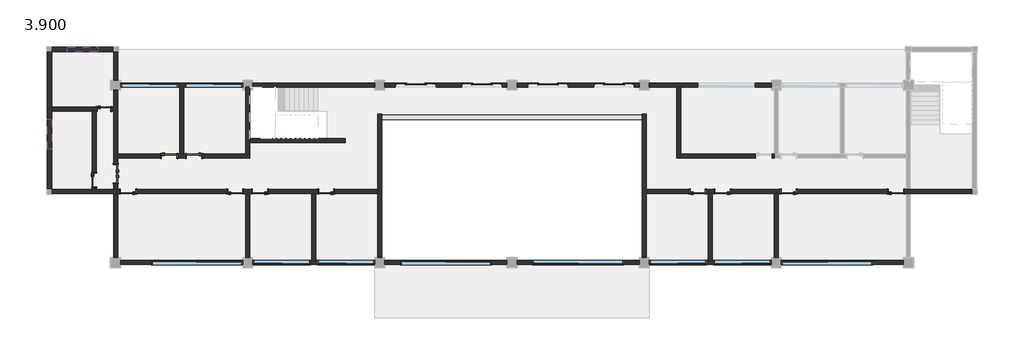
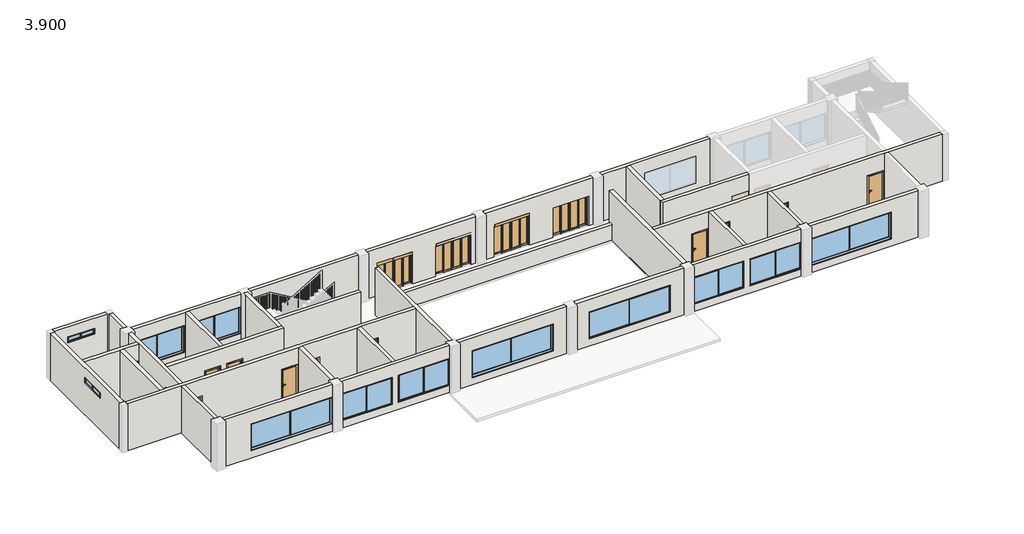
# One storey, part 1 of 4: 32 walls, 17 doors, 12 windows.
"""IFC4 building model written with IfcOpenShell, lengths in millimetres."""

from ifc_helpers import new_model, si_unit, frame, origin, place, context, project, spatial, polyline, outline, extrude, faceted_brep, transform, mapped, element, save
from components import m0921_2716a3da, m0921_be2d5bec, m1021_ed8d65da, m1021_7d4f1ed1, m1221_25037a99, m2421_7f85be3f, c1804_f212372e, c3419_631f8b4f, c3419_b8e60024, c5419_955795ff, c5419_e052dd55

model = new_model("IFC4")

# Units and contexts
model_context = context("Model", 3, world=origin())
ifc_project = project(units=[si_unit("LENGTHUNIT", "METRE", prefix="MILLI")], contexts=[model_context])

# Site, building, storey
site = spatial("IfcSite", under=ifc_project)
building = spatial("IfcBuilding", under=site)
storey = spatial("IfcBuildingStorey", under=building, Name="3.900", Elevation=3900.0)

# Doors
placement = place(None, origin())
m0921_shape = m0921_2716a3da(model_context)
element("IfcDoor", 1, ObjectType="单嵌板木门 1 : M0921", at=placement, inside=storey, context=model_context, shape_type="MappedRepresentation", body=[
    mapped(m0921_shape, transform((-4352.0109656, 4101.6095817, 3900.0), x_axis=(1.0, 0.0, 0.0), y_axis=(0.0, 1.0, 0.0), z_axis=(0.0, 0.0, 1.0))),
])
m0921_2_shape = m0921_be2d5bec(model_context)
element("IfcDoor", 2, ObjectType="单嵌板木门 1 : M0921", at=placement, inside=storey, context=model_context, shape_type="MappedRepresentation", body=[
    mapped(m0921_2_shape, transform((-4937.0109656, -98.3904183, 3900.0), x_axis=(0.0, -1.0, 0.0), y_axis=(1.0, 0.0, 0.0), z_axis=(0.0, 0.0, 1.0))),
])
m1021_shape = m1021_ed8d65da(model_context)
element("IfcDoor", 3, ObjectType="单嵌板木门 1 : M1021", at=placement, inside=storey, context=model_context, shape_type="MappedRepresentation", body=[
    mapped(m1021_shape, transform((-502.0109656, 1316.6095817, 3900.0), x_axis=(1.0, 0.0, 0.0), y_axis=(0.0, 1.0, 0.0), z_axis=(0.0, 0.0, 1.0))),
])
element("IfcDoor", 4, ObjectType="单嵌板木门 1 : M1021", at=placement, inside=storey, context=model_context, shape_type="MappedRepresentation", body=[
    mapped(m1021_shape, transform((-2927.0109656, -783.3904183, 3900.0), x_axis=(-1.0, 0.0, 0.0), y_axis=(0.0, -1.0, 0.0), z_axis=(0.0, 0.0, 1.0))),
])
element("IfcDoor", 5, ObjectType="单嵌板木门 1 : M1021", at=placement, inside=storey, context=model_context, shape_type="MappedRepresentation", body=[
    mapped(m1021_shape, transform((4867.9890344, -783.3904183, 3900.0), x_axis=(-1.0, 0.0, 0.0), y_axis=(0.0, -1.0, 0.0), z_axis=(0.0, 0.0, 1.0))),
])
element("IfcDoor", 6, ObjectType="单嵌板木门 1 : M1021", at=placement, inside=storey, context=model_context, shape_type="MappedRepresentation", body=[
    mapped(m1021_shape, transform((8767.9890344, -783.3904183, 3900.0), x_axis=(-1.0, 0.0, 0.0), y_axis=(0.0, -1.0, 0.0), z_axis=(0.0, 0.0, 1.0))),
])
element("IfcDoor", 7, ObjectType="单嵌板木门 1 : M1021", at=placement, inside=storey, context=model_context, shape_type="MappedRepresentation", body=[
    mapped(m1021_shape, transform((36067.9890344, -783.3904183, 3900.0), x_axis=(-1.0, 0.0, 0.0), y_axis=(0.0, -1.0, 0.0), z_axis=(0.0, 0.0, 1.0))),
])
element("IfcDoor", 8, ObjectType="单嵌板木门 1 : M1021", at=placement, inside=storey, context=model_context, shape_type="MappedRepresentation", body=[
    mapped(m1021_shape, transform((32167.9890344, -783.3904183, 3900.0), x_axis=(-1.0, 0.0, 0.0), y_axis=(0.0, -1.0, 0.0), z_axis=(0.0, 0.0, 1.0))),
])
m1021_2_shape = m1021_7d4f1ed1(model_context)
element("IfcDoor", 9, ObjectType="单嵌板木门 1 : M1021", at=placement, inside=storey, context=model_context, shape_type="MappedRepresentation", body=[
    mapped(m1021_2_shape, transform((967.9890344, 1316.6095817, 3900.0), x_axis=(-1.0, 0.0, 0.0), y_axis=(0.0, -1.0, 0.0), z_axis=(0.0, 0.0, 1.0))),
])
element("IfcDoor", 10, ObjectType="单嵌板木门 1 : M1021", at=placement, inside=storey, context=model_context, shape_type="MappedRepresentation", body=[
    mapped(m1021_2_shape, transform((3397.9890344, -783.3904183, 3900.0), x_axis=(1.0, 0.0, 0.0), y_axis=(0.0, 1.0, 0.0), z_axis=(0.0, 0.0, 1.0))),
])
element("IfcDoor", 11, ObjectType="单嵌板木门 1 : M1021", at=placement, inside=storey, context=model_context, shape_type="MappedRepresentation", body=[
    mapped(m1021_2_shape, transform((42392.9890344, -783.3904183, 3900.0), x_axis=(1.0, 0.0, 0.0), y_axis=(0.0, 1.0, 0.0), z_axis=(0.0, 0.0, 1.0))),
])
element("IfcDoor", 12, ObjectType="单嵌板木门 1 : M1021", at=placement, inside=storey, context=model_context, shape_type="MappedRepresentation", body=[
    mapped(m1021_2_shape, transform((30697.9890344, -783.3904183, 3900.0), x_axis=(1.0, 0.0, 0.0), y_axis=(0.0, 1.0, 0.0), z_axis=(0.0, 0.0, 1.0))),
])
m1221_shape = m1221_25037a99(model_context)
element("IfcDoor", 13, ObjectType="双面嵌板木门 1 : M1221", at=placement, inside=storey, context=model_context, shape_type="MappedRepresentation", body=[
    mapped(m1221_shape, transform((-3667.0109656, 269.1095817, 3900.0), x_axis=(0.0, -1.0, 0.0), y_axis=(1.0, 0.0, 0.0), z_axis=(0.0, 0.0, 1.0))),
])
m2421_shape = m2421_7f85be3f(model_context)
element("IfcDoor", 14, ObjectType="四扇推拉门 2 : M2421", at=placement, inside=storey, context=model_context, shape_type="MappedRepresentation", body=[
    mapped(m2421_shape, transform((14052.9890344, 5516.6095817, 3900.0), x_axis=(1.0, 0.0, 0.0), y_axis=(0.0, 1.0, 0.0), z_axis=(0.0, 0.0, 1.0))),
])
element("IfcDoor", 15, ObjectType="四扇推拉门 2 : M2421", at=placement, inside=storey, context=model_context, shape_type="MappedRepresentation", body=[
    mapped(m2421_shape, transform((17952.9890344, 5516.6095817, 3900.0), x_axis=(1.0, 0.0, 0.0), y_axis=(0.0, 1.0, 0.0), z_axis=(0.0, 0.0, 1.0))),
])
element("IfcDoor", 16, ObjectType="四扇推拉门 2 : M2421", at=placement, inside=storey, context=model_context, shape_type="MappedRepresentation", body=[
    mapped(m2421_shape, transform((25752.9890344, 5516.6095817, 3900.0), x_axis=(1.0, 0.0, 0.0), y_axis=(0.0, 1.0, 0.0), z_axis=(0.0, 0.0, 1.0))),
])
element("IfcDoor", 17, ObjectType="四扇推拉门 2 : M2421", at=placement, inside=storey, context=model_context, shape_type="MappedRepresentation", body=[
    mapped(m2421_shape, transform((21852.9890344, 5516.6095817, 3900.0), x_axis=(1.0, 0.0, 0.0), y_axis=(0.0, 1.0, 0.0), z_axis=(0.0, 0.0, 1.0))),
])

# Walls
element("IfcWall", 18, ObjectType="240mm厚墙", at=placement, inside=storey, context=model_context, shape_type="SweptSolid", body=[
    extrude(outline(polyline([(3900.0, -3842.0109656), (7200.0, -3842.0109656), (7200.0, -7392.0109656), (3900.0, -7392.0109656), (3900.0, -3842.0109656)]), holes=[polyline([(6500.0, -6517.0109656), (6500.0, -4717.0109656), (6100.0, -4717.0109656), (6100.0, -6517.0109656), (6500.0, -6517.0109656)])]), frame((0.0, 7496.6095817, 0.0), z_axis=(0.0, 1.0, 0.0), x_axis=(0.0, 0.0, 1.0)), (0.0, 0.0, 1.0), 240.0),
])
element("IfcWall", 19, ObjectType="240mm厚墙", at=placement, inside=storey, context=model_context, shape_type="Brep", body=[
    faceted_brep([(-7687.0109656, 7441.6095817, 3900.0), (-7687.0109656, -608.3904183, 3900.0), (-7687.0109656, -608.3904183, 7200.0), (-7687.0109656, 7441.6095817, 7200.0), (-7687.0109656, 3506.6095817, 6500.0), (-7687.0109656, 1706.6095817, 6500.0), (-7687.0109656, 1706.6095817, 6100.0), (-7687.0109656, 3506.6095817, 6100.0), (-7447.0109656, 7441.6095817, 3900.0), (-7447.0109656, 7441.6095817, 7200.0), (-7447.0109656, 4221.6095817, 7200.0), (-7447.0109656, 3981.6095817, 7200.0), (-7447.0109656, -608.3904183, 7200.0), (-7447.0109656, -608.3904183, 3900.0), (-7447.0109656, 3981.6095817, 3900.0), (-7447.0109656, 4221.6095817, 3900.0), (-7447.0109656, 3506.6095817, 6500.0), (-7447.0109656, 3506.6095817, 6100.0), (-7447.0109656, 1706.6095817, 6100.0), (-7447.0109656, 1706.6095817, 6500.0)], [[[0, 1, 2, 3], [4, 5, 6, 7]], [[8, 9, 10, 11, 12, 13, 14, 15], [16, 17, 18, 19]], [[1, 0, 8, 15, 14, 13]], [[2, 1, 13, 12]], [[3, 2, 12, 11, 10, 9]], [[0, 3, 9, 8]], [[17, 16, 4, 7]], [[18, 17, 7, 6]], [[19, 18, 6, 5]], [[16, 19, 5, 4]]]),
])
element("IfcWall", 20, ObjectType="240mm厚墙", at=placement, inside=storey, context=model_context, shape_type="Brep", body=[
    faceted_brep([(11812.9890344, -903.3904183, 7200.0), (8152.9890344, -903.3904183, 7200.0), (7912.9890344, -903.3904183, 7200.0), (4252.9890344, -903.3904183, 7200.0), (4012.9890344, -903.3904183, 7200.0), (-3547.0109656, -903.3904183, 7200.0), (-3787.0109656, -903.3904183, 7200.0), (-7392.0109656, -903.3904183, 7200.0), (-7392.0109656, -903.3904183, 3900.0), (-3787.0109656, -903.3904183, 3900.0), (-3547.0109656, -903.3904183, 3900.0), (-3427.0109656, -903.3904183, 3900.0), (-3427.0109656, -903.3904183, 6000.0), (-2427.0109656, -903.3904183, 6000.0), (-2427.0109656, -903.3904183, 3900.0), (2897.9890344, -903.3904183, 3900.0), (2897.9890344, -903.3904183, 6000.0), (3897.9890344, -903.3904183, 6000.0), (3897.9890344, -903.3904183, 3900.0), (4012.9890344, -903.3904183, 3900.0), (4252.9890344, -903.3904183, 3900.0), (4367.9890344, -903.3904183, 3900.0), (4367.9890344, -903.3904183, 6000.0), (5367.9890344, -903.3904183, 6000.0), (5367.9890344, -903.3904183, 3900.0), (7912.9890344, -903.3904183, 3900.0), (8152.9890344, -903.3904183, 3900.0), (8267.9890344, -903.3904183, 3900.0), (8267.9890344, -903.3904183, 6000.0), (9267.9890344, -903.3904183, 6000.0), (9267.9890344, -903.3904183, 3900.0), (11812.9890344, -903.3904183, 3900.0), (-7392.0109656, -663.3904183, 7200.0), (-5057.0109656, -663.3904183, 7200.0), (-4817.0109656, -663.3904183, 7200.0), (-3787.0109656, -663.3904183, 7200.0), (-3547.0109656, -663.3904183, 7200.0), (11812.9890344, -663.3904183, 7200.0), (11812.9890344, -663.3904183, 3900.0), (9267.9890344, -663.3904183, 3900.0), (9267.9890344, -663.3904183, 6000.0), (8267.9890344, -663.3904183, 6000.0), (8267.9890344, -663.3904183, 3900.0), (5367.9890344, -663.3904183, 3900.0), (5367.9890344, -663.3904183, 6000.0), (4367.9890344, -663.3904183, 6000.0), (4367.9890344, -663.3904183, 3900.0), (3897.9890344, -663.3904183, 3900.0), (3897.9890344, -663.3904183, 6000.0), (2897.9890344, -663.3904183, 6000.0), (2897.9890344, -663.3904183, 3900.0), (-2427.0109656, -663.3904183, 3900.0), (-2427.0109656, -663.3904183, 6000.0), (-3427.0109656, -663.3904183, 6000.0), (-3427.0109656, -663.3904183, 3900.0), (-3547.0109656, -663.3904183, 3900.0), (-3787.0109656, -663.3904183, 3900.0), (-4817.0109656, -663.3904183, 3900.0), (-5057.0109656, -663.3904183, 3900.0), (-7392.0109656, -663.3904183, 3900.0)], [[[0, 1, 2, 3, 4, 5, 6, 7, 8, 9, 10, 11, 12, 13, 14, 15, 16, 17, 18, 19, 20, 21, 22, 23, 24, 25, 26, 27, 28, 29, 30, 31]], [[32, 33, 34, 35, 36, 37, 38, 39, 40, 41, 42, 43, 44, 45, 46, 47, 48, 49, 50, 51, 52, 53, 54, 55, 56, 57, 58, 59]], [[8, 59, 58, 57, 56, 55, 54, 11, 10, 9]], [[38, 31, 30, 39]], [[14, 51, 50, 15]], [[18, 47, 46, 21, 20, 19]], [[24, 43, 42, 27, 26, 25]], [[7, 6, 5, 4, 3, 2, 1, 0, 37, 36, 35, 34, 33, 32]], [[8, 7, 32, 59]], [[0, 31, 38, 37]], [[53, 12, 11, 54]], [[12, 53, 52, 13]], [[13, 52, 51, 14]], [[18, 17, 48, 47]], [[17, 16, 49, 48]], [[16, 15, 50, 49]], [[45, 22, 21, 46]], [[22, 45, 44, 23]], [[23, 44, 43, 24]], [[41, 28, 27, 42]], [[28, 41, 40, 29]], [[29, 40, 39, 30]]]),
])
element("IfcWall", 21, ObjectType="240mm厚墙", at=placement, inside=storey, context=model_context, shape_type="Brep", body=[
    faceted_brep([(11812.9890344, 3781.6095817, 3900.0), (11812.9890344, -663.3904183, 3900.0), (11812.9890344, -903.3904183, 3900.0), (11812.9890344, -4683.3904183, 3900.0), (11812.9890344, -4683.3904183, 7200.0), (11812.9890344, -903.3904183, 7200.0), (11812.9890344, -663.3904183, 7200.0), (11812.9890344, 3781.6095817, 7200.0), (12052.9890344, 3781.6095817, 3900.0), (12052.9890344, 3781.6095817, 7200.0), (12052.9890344, -4683.3904183, 7200.0), (12052.9890344, -4683.3904183, 3900.0)], [[[0, 1, 2, 3, 4, 5, 6, 7]], [[8, 9, 10, 11]], [[3, 2, 1, 0, 8, 11]], [[4, 3, 11, 10]], [[7, 6, 5, 4, 10, 9]], [[0, 7, 9, 8]]]),
])
element("IfcWall", 22, ObjectType="240mm厚墙", at=placement, inside=storey, context=model_context, shape_type="Brep", body=[
    faceted_brep([(11632.9890344, -4863.3904183, 3900.0), (8152.9890344, -4863.3904183, 3900.0), (7912.9890344, -4863.3904183, 3900.0), (4432.9890344, -4863.3904183, 3900.0), (4432.9890344, -4863.3904183, 4400.0), (7832.9890344, -4863.3904183, 4400.0), (7832.9890344, -4863.3904183, 6300.0), (4432.9890344, -4863.3904183, 6300.0), (4432.9890344, -4863.3904183, 7200.0), (7912.9890344, -4863.3904183, 7200.0), (8152.9890344, -4863.3904183, 7200.0), (11632.9890344, -4863.3904183, 7200.0), (11632.9890344, -4863.3904183, 6300.0), (8232.9890344, -4863.3904183, 6300.0), (8232.9890344, -4863.3904183, 4400.0), (11632.9890344, -4863.3904183, 4400.0), (4432.9890344, -5103.3904183, 3900.0), (11632.9890344, -5103.3904183, 3900.0), (11632.9890344, -5103.3904183, 4400.0), (8232.9890344, -5103.3904183, 4400.0), (8232.9890344, -5103.3904183, 6300.0), (11632.9890344, -5103.3904183, 6300.0), (11632.9890344, -5103.3904183, 7200.0), (4432.9890344, -5103.3904183, 7200.0), (4432.9890344, -5103.3904183, 6300.0), (7832.9890344, -5103.3904183, 6300.0), (7832.9890344, -5103.3904183, 4400.0), (4432.9890344, -5103.3904183, 4400.0)], [[[0, 1, 2, 3, 4, 5, 6, 7, 8, 9, 10, 11, 12, 13, 14, 15]], [[16, 17, 18, 19, 20, 21, 22, 23, 24, 25, 26, 27]], [[3, 2, 1, 0, 17, 16]], [[3, 16, 27, 4]], [[23, 8, 7, 24]], [[11, 10, 9, 8, 23, 22]], [[11, 22, 21, 12]], [[17, 0, 15, 18]], [[5, 4, 27, 26]], [[6, 5, 26, 25]], [[7, 6, 25, 24]], [[13, 20, 19, 14]], [[14, 19, 18, 15]], [[20, 13, 12, 21]]]),
])
element("IfcWall", 23, ObjectType="240mm厚墙", at=placement, inside=storey, context=model_context, shape_type="SweptSolid", body=[
    extrude(outline(polyline([(3900.0, 3832.9890344), (4400.0, 3832.9890344), (4400.0, -1567.0109656), (6300.0, -1567.0109656), (6300.0, 3832.9890344), (7200.0, 3832.9890344), (7200.0, -3367.0109656), (3900.0, -3367.0109656), (3900.0, 3832.9890344)])), frame((0.0, -5103.3904183, 0.0), z_axis=(0.0, 1.0, 0.0), x_axis=(0.0, 0.0, 1.0)), (0.0, 0.0, 1.0), 240.0),
])
element("IfcWall", 24, ObjectType="240mm厚墙", at=placement, inside=storey, context=model_context, shape_type="Brep", body=[
    faceted_brep([(-3547.0109656, 5216.6095817, 3900.0), (-3547.0109656, 5216.6095817, 7200.0), (-3547.0109656, 1436.6095817, 7200.0), (-3547.0109656, 1196.6095817, 7200.0), (-3547.0109656, -663.3904183, 7200.0), (-3547.0109656, -663.3904183, 3900.0), (-3547.0109656, -330.8904183, 3900.0), (-3547.0109656, -330.8904183, 6000.0), (-3547.0109656, 869.1095817, 6000.0), (-3547.0109656, 869.1095817, 3900.0), (-3547.0109656, 1196.6095817, 3900.0), (-3547.0109656, 1436.6095817, 3900.0), (-3787.0109656, 5216.6095817, 7200.0), (-3787.0109656, 5216.6095817, 3900.0), (-3787.0109656, 4221.6095817, 3900.0), (-3787.0109656, 3981.6095817, 3900.0), (-3787.0109656, 869.1095817, 3900.0), (-3787.0109656, 869.1095817, 6000.0), (-3787.0109656, -330.8904183, 6000.0), (-3787.0109656, -330.8904183, 3900.0), (-3787.0109656, -663.3904183, 3900.0), (-3787.0109656, -663.3904183, 7200.0), (-3787.0109656, 3981.6095817, 7200.0), (-3787.0109656, 4221.6095817, 7200.0)], [[[0, 1, 2, 3, 4, 5, 6, 7, 8, 9, 10, 11]], [[12, 13, 14, 15, 16, 17, 18, 19, 20, 21, 22, 23]], [[13, 0, 11, 10, 9, 16, 15, 14]], [[19, 6, 5, 20]], [[1, 0, 13, 12]], [[1, 12, 23, 22, 21, 4, 3, 2]], [[5, 4, 21, 20]], [[18, 7, 6, 19]], [[7, 18, 17, 8]], [[8, 17, 16, 9]]]),
    faceted_brep([(-3547.0109656, -4683.3904183, 7200.0), (-3547.0109656, -4683.3904183, 3900.0), (-3547.0109656, -903.3904183, 3900.0), (-3547.0109656, -903.3904183, 7200.0), (-3787.0109656, -4683.3904183, 3900.0), (-3787.0109656, -4683.3904183, 7200.0), (-3787.0109656, -903.3904183, 7200.0), (-3787.0109656, -903.3904183, 3900.0)], [[[0, 1, 2, 3]], [[4, 5, 6, 7]], [[1, 4, 7, 2]], [[5, 0, 3, 6]], [[1, 0, 5, 4]], [[3, 2, 7, 6]]]),
])
element("IfcWall", 25, ObjectType="240mm厚墙", at=placement, inside=storey, context=model_context, shape_type="SweptSolid", body=[
    extrude(outline(polyline([(-3547.0109656, 7441.6095817), (-3547.0109656, 5816.6095817), (-3787.0109656, 5816.6095817), (-3787.0109656, 7441.6095817), (-3547.0109656, 7441.6095817)])), frame((0.0, 0.0, 3900.0), z_axis=(0.0, 0.0, 1.0), x_axis=(1.0, 0.0, 0.0)), (0.0, 0.0, 1.0), 3300.0),
])
element("IfcWall", 26, ObjectType="240mm厚墙", at=placement, inside=storey, context=model_context, shape_type="Brep", body=[
    faceted_brep([(3832.9890344, 5396.6095817, 3900.0), (3832.9890344, 5396.6095817, 4400.0), (432.9890344, 5396.6095817, 4400.0), (432.9890344, 5396.6095817, 6300.0), (3832.9890344, 5396.6095817, 6300.0), (3832.9890344, 5396.6095817, 7200.0), (352.9890344, 5396.6095817, 7200.0), (112.9890344, 5396.6095817, 7200.0), (-3367.0109656, 5396.6095817, 7200.0), (-3367.0109656, 5396.6095817, 6300.0), (32.9890344, 5396.6095817, 6300.0), (32.9890344, 5396.6095817, 4400.0), (-3367.0109656, 5396.6095817, 4400.0), (-3367.0109656, 5396.6095817, 3900.0), (112.9890344, 5396.6095817, 3900.0), (352.9890344, 5396.6095817, 3900.0), (432.9890344, 5636.6095817, 4400.0), (3832.9890344, 5636.6095817, 4400.0), (3832.9890344, 5636.6095817, 3900.0), (-3367.0109656, 5636.6095817, 3900.0), (-3367.0109656, 5636.6095817, 4400.0), (32.9890344, 5636.6095817, 4400.0), (32.9890344, 5636.6095817, 6300.0), (-3367.0109656, 5636.6095817, 6300.0), (-3367.0109656, 5636.6095817, 7200.0), (3832.9890344, 5636.6095817, 7200.0), (3832.9890344, 5636.6095817, 6300.0), (432.9890344, 5636.6095817, 6300.0)], [[[0, 1, 2, 3, 4, 5, 6, 7, 8, 9, 10, 11, 12, 13, 14, 15]], [[16, 17, 18, 19, 20, 21, 22, 23, 24, 25, 26, 27]], [[0, 15, 14, 13, 19, 18]], [[26, 25, 5, 4]], [[18, 17, 1, 0]], [[8, 7, 6, 5, 25, 24]], [[8, 24, 23, 9]], [[19, 13, 12, 20]], [[2, 1, 17, 16]], [[3, 2, 16, 27]], [[4, 3, 27, 26]], [[10, 22, 21, 11]], [[11, 21, 20, 12]], [[22, 10, 9, 23]]]),
])
element("IfcWall", 27, ObjectType="240mm厚墙", at=placement, inside=storey, context=model_context, shape_type="SweptSolid", body=[
    extrude(outline(polyline([(11632.9890344, 5396.6095817), (4432.9890344, 5396.6095817), (4432.9890344, 5636.6095817), (11632.9890344, 5636.6095817), (11632.9890344, 5396.6095817)])), frame((0.0, 0.0, 3900.0), z_axis=(0.0, 0.0, 1.0), x_axis=(1.0, 0.0, 0.0)), (0.0, 0.0, 1.0), 3300.0),
])
element("IfcWall", 28, ObjectType="240mm厚墙", at=placement, inside=storey, context=model_context, shape_type="SweptSolid", body=[
    extrude(outline(polyline([(3900.0, 19432.9890344), (7200.0, 19432.9890344), (7200.0, 12232.9890344), (3900.0, 12232.9890344), (3900.0, 12852.9890344), (6000.0, 12852.9890344), (6000.0, 15252.9890344), (3900.0, 15252.9890344), (3900.0, 16752.9890344), (6000.0, 16752.9890344), (6000.0, 19152.9890344), (3900.0, 19152.9890344), (3900.0, 19432.9890344)])), frame((0.0, 5396.6095817, 0.0), z_axis=(0.0, 1.0, 0.0), x_axis=(0.0, 0.0, 1.0)), (0.0, 0.0, 1.0), 240.0),
])
element("IfcWall", 29, ObjectType="240mm厚墙", at=placement, inside=storey, context=model_context, shape_type="SweptSolid", body=[
    extrude(outline(polyline([(3900.0, 12232.9890344), (3900.0, 19432.9890344), (7200.0, 19432.9890344), (7200.0, 12232.9890344), (3900.0, 12232.9890344)]), holes=[polyline([(6300.0, 18532.9890344), (4400.0, 18532.9890344), (4400.0, 13132.9890344), (6300.0, 13132.9890344), (6300.0, 18532.9890344)])]), frame((0.0, -5103.3904183, 0.0), z_axis=(0.0, 1.0, 0.0), x_axis=(0.0, 0.0, 1.0)), (0.0, 0.0, 1.0), 240.0),
])
element("IfcWall", 30, ObjectType="240mm厚墙", at=placement, inside=storey, context=model_context, shape_type="SweptSolid", body=[
    extrude(outline(polyline([(7912.9890344, -4863.3904183), (7912.9890344, -903.3904183), (8152.9890344, -903.3904183), (8152.9890344, -4863.3904183), (7912.9890344, -4863.3904183)])), frame((0.0, 0.0, 3900.0), z_axis=(0.0, 0.0, 1.0), x_axis=(1.0, 0.0, 0.0)), (0.0, 0.0, 1.0), 3300.0),
])
element("IfcWall", 31, ObjectType="240mm厚墙", at=placement, inside=storey, context=model_context, shape_type="SweptSolid", body=[
    extrude(outline(polyline([(4252.9890344, -903.3904183), (4252.9890344, -4683.3904183), (4012.9890344, -4683.3904183), (4012.9890344, -903.3904183), (4252.9890344, -903.3904183)])), frame((0.0, 0.0, 3900.0), z_axis=(0.0, 0.0, 1.0), x_axis=(1.0, 0.0, 0.0)), (0.0, 0.0, 1.0), 3300.0),
])
element("IfcWall", 32, ObjectType="240mm厚墙", at=placement, inside=storey, context=model_context, shape_type="Brep", body=[
    faceted_brep([(4252.9890344, 1196.6095817, 7200.0), (-3547.0109656, 1196.6095817, 7200.0), (-3547.0109656, 1196.6095817, 3900.0), (-1002.0109656, 1196.6095817, 3900.0), (-1002.0109656, 1196.6095817, 6000.0), (-2.0109656, 1196.6095817, 6000.0), (-2.0109656, 1196.6095817, 3900.0), (467.9890344, 1196.6095817, 3900.0), (467.9890344, 1196.6095817, 6000.0), (1467.9890344, 1196.6095817, 6000.0), (1467.9890344, 1196.6095817, 3900.0), (4252.9890344, 1196.6095817, 3900.0), (-3547.0109656, 1436.6095817, 7200.0), (112.9890344, 1436.6095817, 7200.0), (352.9890344, 1436.6095817, 7200.0), (4012.9890344, 1436.6095817, 7200.0), (4252.9890344, 1436.6095817, 7200.0), (4252.9890344, 1436.6095817, 3900.0), (4012.9890344, 1436.6095817, 3900.0), (1467.9890344, 1436.6095817, 3900.0), (1467.9890344, 1436.6095817, 6000.0), (467.9890344, 1436.6095817, 6000.0), (467.9890344, 1436.6095817, 3900.0), (352.9890344, 1436.6095817, 3900.0), (112.9890344, 1436.6095817, 3900.0), (-2.0109656, 1436.6095817, 3900.0), (-2.0109656, 1436.6095817, 6000.0), (-1002.0109656, 1436.6095817, 6000.0), (-1002.0109656, 1436.6095817, 3900.0), (-3547.0109656, 1436.6095817, 3900.0)], [[[0, 1, 2, 3, 4, 5, 6, 7, 8, 9, 10, 11]], [[12, 13, 14, 15, 16, 17, 18, 19, 20, 21, 22, 23, 24, 25, 26, 27, 28, 29]], [[2, 29, 28, 3]], [[17, 11, 10, 19, 18]], [[6, 25, 24, 23, 22, 7]], [[1, 0, 16, 15, 14, 13, 12]], [[2, 1, 12, 29]], [[0, 11, 17, 16]], [[5, 26, 25, 6]], [[26, 5, 4, 27]], [[27, 4, 3, 28]], [[21, 8, 7, 22]], [[8, 21, 20, 9]], [[9, 20, 19, 10]]]),
])
element("IfcWall", 33, ObjectType="240mm厚墙", at=placement, inside=storey, context=model_context, shape_type="Brep", body=[
    faceted_brep([(4252.9890344, 1436.6095817, 3900.0), (4252.9890344, 2106.6095817, 3900.0), (4252.9890344, 2346.6095817, 3900.0), (4252.9890344, 5396.6095817, 3900.0), (4252.9890344, 5396.6095817, 7200.0), (4252.9890344, 2346.6095817, 7200.0), (4252.9890344, 2106.6095817, 7200.0), (4252.9890344, 1436.6095817, 7200.0), (4012.9890344, 1436.6095817, 3900.0), (4012.9890344, 1436.6095817, 7200.0), (4012.9890344, 5396.6095817, 7200.0), (4012.9890344, 5396.6095817, 3900.0)], [[[0, 1, 2, 3, 4, 5, 6, 7]], [[8, 9, 10, 11]], [[3, 2, 1, 0, 8, 11]], [[4, 3, 11, 10]], [[7, 6, 5, 4, 10, 9]], [[0, 7, 9, 8]]]),
])
element("IfcWall", 34, ObjectType="240mm厚墙", at=placement, inside=storey, context=model_context, shape_type="SweptSolid", body=[
    extrude(outline(polyline([(112.9890344, 1436.6095817), (112.9890344, 5396.6095817), (352.9890344, 5396.6095817), (352.9890344, 1436.6095817), (112.9890344, 1436.6095817)])), frame((0.0, 0.0, 3900.0), z_axis=(0.0, 0.0, 1.0), x_axis=(1.0, 0.0, 0.0)), (0.0, 0.0, 1.0), 3300.0),
])
element("IfcWall", 35, ObjectType="240mm厚墙", at=placement, inside=storey, context=model_context, shape_type="Brep", body=[
    faceted_brep([(-3787.0109656, 3981.6095817, 7200.0), (-4817.0109656, 3981.6095817, 7200.0), (-5057.0109656, 3981.6095817, 7200.0), (-7447.0109656, 3981.6095817, 7200.0), (-7447.0109656, 3981.6095817, 3900.0), (-5057.0109656, 3981.6095817, 3900.0), (-4817.0109656, 3981.6095817, 3900.0), (-4802.0109656, 3981.6095817, 3900.0), (-4802.0109656, 3981.6095817, 6000.0), (-3902.0109656, 3981.6095817, 6000.0), (-3902.0109656, 3981.6095817, 3900.0), (-3787.0109656, 3981.6095817, 3900.0), (-7447.0109656, 4221.6095817, 7200.0), (-3787.0109656, 4221.6095817, 7200.0), (-3787.0109656, 4221.6095817, 3900.0), (-3902.0109656, 4221.6095817, 3900.0), (-3902.0109656, 4221.6095817, 6000.0), (-4802.0109656, 4221.6095817, 6000.0), (-4802.0109656, 4221.6095817, 3900.0), (-7447.0109656, 4221.6095817, 3900.0)], [[[0, 1, 2, 3, 4, 5, 6, 7, 8, 9, 10, 11]], [[12, 13, 14, 15, 16, 17, 18, 19]], [[4, 19, 18, 7, 6, 5]], [[14, 11, 10, 15]], [[3, 2, 1, 0, 13, 12]], [[19, 4, 3, 12]], [[11, 14, 13, 0]], [[9, 16, 15, 10]], [[16, 9, 8, 17]], [[17, 8, 7, 18]]]),
])
element("IfcWall", 36, ObjectType="240mm厚墙", at=placement, inside=storey, context=model_context, shape_type="SweptSolid", body=[
    extrude(outline(polyline([(-663.3904183, 7200.0), (3981.6095817, 7200.0), (3981.6095817, 3900.0), (351.6095817, 3900.0), (351.6095817, 6000.0), (-548.3904183, 6000.0), (-548.3904183, 3900.0), (-663.3904183, 3900.0), (-663.3904183, 7200.0)])), frame((-5057.0109656, 0.0, 0.0), z_axis=(1.0, 0.0, 0.0), x_axis=(0.0, 1.0, 0.0)), (0.0, 0.0, 1.0), 240.0),
])
element("IfcWall", 37, ObjectType="240mm厚墙", at=placement, inside=storey, context=model_context, shape_type="SweptSolid", body=[
    extrude(outline(polyline([(9892.9890344, 2106.6095817), (4252.9890344, 2106.6095817), (4252.9890344, 2346.6095817), (9892.9890344, 2346.6095817), (9892.9890344, 2106.6095817)])), frame((0.0, 0.0, 3900.0), z_axis=(0.0, 0.0, 1.0), x_axis=(1.0, 0.0, 0.0)), (0.0, 0.0, 1.0), 3300.0),
])
element("IfcWall", 38, ObjectType="240mm厚墙", at=placement, inside=storey, context=model_context, shape_type="Brep", body=[
    faceted_brep([(27652.9890344, -663.3904183, 7200.0), (43012.9890344, -663.3904183, 7200.0), (43252.9890344, -663.3904183, 7200.0), (46857.9890344, -663.3904183, 7200.0), (46857.9890344, -663.3904183, 3900.0), (43252.9890344, -663.3904183, 3900.0), (43012.9890344, -663.3904183, 3900.0), (42892.9890344, -663.3904183, 3900.0), (42892.9890344, -663.3904183, 6000.0), (41892.9890344, -663.3904183, 6000.0), (41892.9890344, -663.3904183, 3900.0), (36567.9890344, -663.3904183, 3900.0), (36567.9890344, -663.3904183, 6000.0), (35567.9890344, -663.3904183, 6000.0), (35567.9890344, -663.3904183, 3900.0), (32667.9890344, -663.3904183, 3900.0), (32667.9890344, -663.3904183, 6000.0), (31667.9890344, -663.3904183, 6000.0), (31667.9890344, -663.3904183, 3900.0), (31197.9890344, -663.3904183, 3900.0), (31197.9890344, -663.3904183, 6000.0), (30197.9890344, -663.3904183, 6000.0), (30197.9890344, -663.3904183, 3900.0), (27652.9890344, -663.3904183, 3900.0), (46857.9890344, -903.3904183, 7200.0), (43252.9890344, -903.3904183, 7200.0), (43012.9890344, -903.3904183, 7200.0), (35452.9890344, -903.3904183, 7200.0), (35212.9890344, -903.3904183, 7200.0), (31552.9890344, -903.3904183, 7200.0), (31312.9890344, -903.3904183, 7200.0), (27652.9890344, -903.3904183, 7200.0), (27652.9890344, -903.3904183, 3900.0), (30197.9890344, -903.3904183, 3900.0), (30197.9890344, -903.3904183, 6000.0), (31197.9890344, -903.3904183, 6000.0), (31197.9890344, -903.3904183, 3900.0), (31312.9890344, -903.3904183, 3900.0), (31552.9890344, -903.3904183, 3900.0), (31667.9890344, -903.3904183, 3900.0), (31667.9890344, -903.3904183, 6000.0), (32667.9890344, -903.3904183, 6000.0), (32667.9890344, -903.3904183, 3900.0), (35212.9890344, -903.3904183, 3900.0), (35452.9890344, -903.3904183, 3900.0), (35567.9890344, -903.3904183, 3900.0), (35567.9890344, -903.3904183, 6000.0), (36567.9890344, -903.3904183, 6000.0), (36567.9890344, -903.3904183, 3900.0), (41892.9890344, -903.3904183, 3900.0), (41892.9890344, -903.3904183, 6000.0), (42892.9890344, -903.3904183, 6000.0), (42892.9890344, -903.3904183, 3900.0), (43012.9890344, -903.3904183, 3900.0), (43252.9890344, -903.3904183, 3900.0), (46857.9890344, -903.3904183, 3900.0)], [[[0, 1, 2, 3, 4, 5, 6, 7, 8, 9, 10, 11, 12, 13, 14, 15, 16, 17, 18, 19, 20, 21, 22, 23]], [[24, 25, 26, 27, 28, 29, 30, 31, 32, 33, 34, 35, 36, 37, 38, 39, 40, 41, 42, 43, 44, 45, 46, 47, 48, 49, 50, 51, 52, 53, 54, 55]], [[4, 55, 54, 53, 52, 7, 6, 5]], [[32, 23, 22, 33]], [[10, 49, 48, 11]], [[14, 45, 44, 43, 42, 15]], [[18, 39, 38, 37, 36, 19]], [[3, 2, 1, 0, 31, 30, 29, 28, 27, 26, 25, 24]], [[4, 3, 24, 55]], [[0, 23, 32, 31]], [[51, 8, 7, 52]], [[8, 51, 50, 9]], [[9, 50, 49, 10]], [[13, 46, 45, 14]], [[46, 13, 12, 47]], [[47, 12, 11, 48]], [[17, 40, 39, 18]], [[40, 17, 16, 41]], [[41, 16, 15, 42]], [[35, 20, 19, 36]], [[20, 35, 34, 21]], [[21, 34, 33, 22]]]),
])
element("IfcWall", 39, ObjectType="240mm厚墙", at=placement, inside=storey, context=model_context, shape_type="Brep", body=[
    faceted_brep([(27412.9890344, 3781.6095817, 3900.0), (27412.9890344, -4683.3904183, 3900.0), (27412.9890344, -4683.3904183, 7200.0), (27412.9890344, 3781.6095817, 7200.0), (27652.9890344, 3781.6095817, 3900.0), (27652.9890344, 3781.6095817, 7200.0), (27652.9890344, -663.3904183, 7200.0), (27652.9890344, -903.3904183, 7200.0), (27652.9890344, -4683.3904183, 7200.0), (27652.9890344, -4683.3904183, 3900.0), (27652.9890344, -903.3904183, 3900.0), (27652.9890344, -663.3904183, 3900.0)], [[[0, 1, 2, 3]], [[4, 5, 6, 7, 8, 9, 10, 11]], [[1, 0, 4, 11, 10, 9]], [[2, 1, 9, 8]], [[3, 2, 8, 7, 6, 5]], [[0, 3, 5, 4]]]),
])
element("IfcWall", 40, ObjectType="240mm厚墙", at=placement, inside=storey, context=model_context, shape_type="Brep", body=[
    faceted_brep([(27832.9890344, -5103.3904183, 7200.0), (27832.9890344, -5103.3904183, 6300.0), (31232.9890344, -5103.3904183, 6300.0), (31232.9890344, -5103.3904183, 4400.0), (27832.9890344, -5103.3904183, 4400.0), (27832.9890344, -5103.3904183, 3900.0), (35032.9890344, -5103.3904183, 3900.0), (35032.9890344, -5103.3904183, 4400.0), (31632.9890344, -5103.3904183, 4400.0), (31632.9890344, -5103.3904183, 6300.0), (35032.9890344, -5103.3904183, 6300.0), (35032.9890344, -5103.3904183, 7200.0), (31232.9890344, -4863.3904183, 6300.0), (27832.9890344, -4863.3904183, 6300.0), (27832.9890344, -4863.3904183, 7200.0), (31312.9890344, -4863.3904183, 7200.0), (31552.9890344, -4863.3904183, 7200.0), (35032.9890344, -4863.3904183, 7200.0), (35032.9890344, -4863.3904183, 6300.0), (31632.9890344, -4863.3904183, 6300.0), (31632.9890344, -4863.3904183, 4400.0), (35032.9890344, -4863.3904183, 4400.0), (35032.9890344, -4863.3904183, 3900.0), (31552.9890344, -4863.3904183, 3900.0), (31312.9890344, -4863.3904183, 3900.0), (27832.9890344, -4863.3904183, 3900.0), (27832.9890344, -4863.3904183, 4400.0), (31232.9890344, -4863.3904183, 4400.0)], [[[0, 1, 2, 3, 4, 5, 6, 7, 8, 9, 10, 11]], [[12, 13, 14, 15, 16, 17, 18, 19, 20, 21, 22, 23, 24, 25, 26, 27]], [[6, 5, 25, 24, 23, 22]], [[18, 17, 11, 10]], [[22, 21, 7, 6]], [[0, 11, 17, 16, 15, 14]], [[26, 25, 5, 4]], [[14, 13, 1, 0]], [[3, 2, 12, 27]], [[4, 3, 27, 26]], [[2, 1, 13, 12]], [[8, 7, 21, 20]], [[9, 8, 20, 19]], [[10, 9, 19, 18]]]),
])
element("IfcWall", 41, ObjectType="240mm厚墙", at=placement, inside=storey, context=model_context, shape_type="SweptSolid", body=[
    extrude(outline(polyline([(4400.0, 41032.9890344), (4400.0, 35632.9890344), (3900.0, 35632.9890344), (3900.0, 42832.9890344), (7200.0, 42832.9890344), (7200.0, 35632.9890344), (6300.0, 35632.9890344), (6300.0, 41032.9890344), (4400.0, 41032.9890344)])), frame((0.0, -5103.3904183, 0.0), z_axis=(0.0, 1.0, 0.0), x_axis=(0.0, 0.0, 1.0)), (0.0, 0.0, 1.0), 240.0),
])
element("IfcWall", 42, ObjectType="240mm厚墙", at=placement, inside=storey, context=model_context, shape_type="Brep", body=[
    faceted_brep([(35032.9890344, 5636.6095817, 3900.0), (27832.9890344, 5636.6095817, 3900.0), (27832.9890344, 5636.6095817, 7200.0), (35032.9890344, 5636.6095817, 7200.0), (30692.9890344, 5636.6095817, 6300.0), (30692.9890344, 5636.6095817, 4400.0), (34092.9890344, 5636.6095817, 4400.0), (34092.9890344, 5636.6095817, 6300.0), (35032.9890344, 5396.6095817, 3900.0), (35032.9890344, 5396.6095817, 7200.0), (29692.9890344, 5396.6095817, 7200.0), (29452.9890344, 5396.6095817, 7200.0), (27832.9890344, 5396.6095817, 7200.0), (27832.9890344, 5396.6095817, 3900.0), (29452.9890344, 5396.6095817, 3900.0), (29692.9890344, 5396.6095817, 3900.0), (30692.9890344, 5396.6095817, 6300.0), (34092.9890344, 5396.6095817, 6300.0), (34092.9890344, 5396.6095817, 4400.0), (30692.9890344, 5396.6095817, 4400.0)], [[[0, 1, 2, 3], [4, 5, 6, 7]], [[8, 9, 10, 11, 12, 13, 14, 15], [16, 17, 18, 19]], [[1, 0, 8, 15, 14, 13]], [[2, 1, 13, 12]], [[3, 2, 12, 11, 10, 9]], [[0, 3, 9, 8]], [[5, 4, 16, 19]], [[6, 5, 19, 18]], [[7, 6, 18, 17]], [[4, 7, 17, 16]]]),
])
element("IfcWall", 43, ObjectType="240mm厚墙", at=placement, inside=storey, context=model_context, shape_type="SweptSolid", body=[
    extrude(outline(polyline([(7200.0, 20032.9890344), (3900.0, 20032.9890344), (3900.0, 20652.9890344), (6000.0, 20652.9890344), (6000.0, 23052.9890344), (3900.0, 23052.9890344), (3900.0, 24552.9890344), (6000.0, 24552.9890344), (6000.0, 26952.9890344), (3900.0, 26952.9890344), (3900.0, 27232.9890344), (7200.0, 27232.9890344), (7200.0, 20032.9890344)])), frame((0.0, 5396.6095817, 0.0), z_axis=(0.0, 1.0, 0.0), x_axis=(0.0, 0.0, 1.0)), (0.0, 0.0, 1.0), 240.0),
])
element("IfcWall", 44, ObjectType="240mm厚墙", at=placement, inside=storey, context=model_context, shape_type="SweptSolid", body=[
    extrude(outline(polyline([(3900.0, 27232.9890344), (7200.0, 27232.9890344), (7200.0, 20032.9890344), (3900.0, 20032.9890344), (3900.0, 27232.9890344)]), holes=[polyline([(6300.0, 20932.9890344), (6300.0, 26332.9890344), (4400.0, 26332.9890344), (4400.0, 20932.9890344), (6300.0, 20932.9890344)])]), frame((0.0, -5103.3904183, 0.0), z_axis=(0.0, 1.0, 0.0), x_axis=(0.0, 0.0, 1.0)), (0.0, 0.0, 1.0), 240.0),
])
element("IfcWall", 45, ObjectType="240mm厚墙", at=placement, inside=storey, context=model_context, shape_type="SweptSolid", body=[
    extrude(outline(polyline([(31312.9890344, -4863.3904183), (31312.9890344, -903.3904183), (31552.9890344, -903.3904183), (31552.9890344, -4863.3904183), (31312.9890344, -4863.3904183)])), frame((0.0, 0.0, 3900.0), z_axis=(0.0, 0.0, 1.0), x_axis=(1.0, 0.0, 0.0)), (0.0, 0.0, 1.0), 3300.0),
])
element("IfcWall", 46, ObjectType="240mm厚墙", at=placement, inside=storey, context=model_context, shape_type="SweptSolid", body=[
    extrude(outline(polyline([(35452.9890344, -903.3904183), (35452.9890344, -4683.3904183), (35212.9890344, -4683.3904183), (35212.9890344, -903.3904183), (35452.9890344, -903.3904183)])), frame((0.0, 0.0, 3900.0), z_axis=(0.0, 0.0, 1.0), x_axis=(1.0, 0.0, 0.0)), (0.0, 0.0, 1.0), 3300.0),
])
element("IfcWall", 47, ObjectType="240mm厚墙", at=placement, inside=storey, context=model_context, shape_type="Brep", body=[
    faceted_brep([(29452.9890344, 1436.6095817, 7200.0), (29692.9890344, 1436.6095817, 7200.0), (35212.9890344, 1436.6095817, 7200.0), (35212.9890344, 1436.6095817, 3900.0), (35097.9890344, 1436.6095817, 3900.0), (35097.9890344, 1436.6095817, 6000.0), (34097.9890344, 1436.6095817, 6000.0), (34097.9890344, 1436.6095817, 3900.0), (29692.9890344, 1436.6095817, 3900.0), (29452.9890344, 1436.6095817, 3900.0), (35212.9890344, 1196.6095817, 7200.0), (29452.9890344, 1196.6095817, 7200.0), (29452.9890344, 1196.6095817, 3900.0), (34097.9890344, 1196.6095817, 3900.0), (34097.9890344, 1196.6095817, 6000.0), (35097.9890344, 1196.6095817, 6000.0), (35097.9890344, 1196.6095817, 3900.0), (35212.9890344, 1196.6095817, 3900.0)], [[[0, 1, 2, 3, 4, 5, 6, 7, 8, 9]], [[10, 11, 12, 13, 14, 15, 16, 17]], [[12, 9, 8, 7, 13]], [[3, 17, 16, 4]], [[2, 1, 0, 11, 10]], [[3, 2, 10, 17]], [[0, 9, 12, 11]], [[15, 5, 4, 16]], [[5, 15, 14, 6]], [[6, 14, 13, 7]]]),
])
element("IfcWall", 48, ObjectType="240mm厚墙", at=placement, inside=storey, context=model_context, shape_type="SweptSolid", body=[
    extrude(outline(polyline([(29692.9890344, 5396.6095817), (29692.9890344, 1436.6095817), (29452.9890344, 1436.6095817), (29452.9890344, 5396.6095817), (29692.9890344, 5396.6095817)])), frame((0.0, 0.0, 3900.0), z_axis=(0.0, 0.0, 1.0), x_axis=(1.0, 0.0, 0.0)), (0.0, 0.0, 1.0), 3300.0),
])
element("IfcWall", 49, ObjectType="240mm厚墙", at=placement, inside=storey, context=model_context, shape_type="SweptSolid", body=[
    extrude(outline(polyline([(27412.9890344, 3481.6095817), (12052.9890344, 3481.6095817), (12052.9890344, 3721.6095817), (27412.9890344, 3721.6095817), (27412.9890344, 3481.6095817)])), frame((0.0, 0.0, 3900.0), z_axis=(0.0, 0.0, 1.0), x_axis=(1.0, 0.0, 0.0)), (0.0, 0.0, 1.0), 1100.0),
])

# Windows
c1804_shape = c1804_f212372e(model_context)
element("IfcWindow", 50, ObjectType="推拉窗6 : C1804", at=placement, inside=storey, context=model_context, shape_type="MappedRepresentation", body=[
    mapped(c1804_shape, transform((-5607.4859656, 7549.7361442, 5500.0), x_axis=(-1.0, 0.0, 0.0), y_axis=(0.0, -1.0, 0.0), z_axis=(0.0, 0.0, 1.0))),
])
element("IfcWindow", 51, ObjectType="推拉窗6 : C1804", at=placement, inside=storey, context=model_context, shape_type="MappedRepresentation", body=[
    mapped(c1804_shape, transform((-7633.8844031, 2597.0845817, 5500.0), x_axis=(0.0, 1.0, 0.0), y_axis=(-1.0, 0.0, 0.0), z_axis=(0.0, 0.0, 1.0))),
])
c3419_shape = c3419_631f8b4f(model_context)
element("IfcWindow", 52, ObjectType="推拉窗6 : C3419", at=placement, inside=storey, context=model_context, shape_type="MappedRepresentation", body=[
    mapped(c3419_shape, transform((6142.5140344, -5050.2638558, 3800.0), x_axis=(-1.0, 0.0, 0.0), y_axis=(0.0, -1.0, 0.0), z_axis=(0.0, 0.0, 1.0))),
])
element("IfcWindow", 53, ObjectType="推拉窗6 : C3419", at=placement, inside=storey, context=model_context, shape_type="MappedRepresentation", body=[
    mapped(c3419_shape, transform((9942.5140344, -5050.2638558, 3800.0), x_axis=(-1.0, 0.0, 0.0), y_axis=(0.0, -1.0, 0.0), z_axis=(0.0, 0.0, 1.0))),
])
element("IfcWindow", 54, ObjectType="推拉窗6 : C3419", at=placement, inside=storey, context=model_context, shape_type="MappedRepresentation", body=[
    mapped(c3419_shape, transform((2123.4640344, 5583.4830192, 3800.0), x_axis=(1.0, 0.0, 0.0), y_axis=(0.0, 1.0, 0.0), z_axis=(0.0, 0.0, 1.0))),
])
element("IfcWindow", 55, ObjectType="推拉窗6 : C3419", at=placement, inside=storey, context=model_context, shape_type="MappedRepresentation", body=[
    mapped(c3419_shape, transform((-1676.5359656, 5583.4830192, 3800.0), x_axis=(1.0, 0.0, 0.0), y_axis=(0.0, 1.0, 0.0), z_axis=(0.0, 0.0, 1.0))),
])
c3419_2_shape = c3419_b8e60024(model_context)
element("IfcWindow", 56, ObjectType="推拉窗6 : C3419", at=placement, inside=storey, context=model_context, shape_type="MappedRepresentation", body=[
    mapped(c3419_2_shape, transform((33323.4640344, -5050.2638558, 3800.0), x_axis=(1.0, 0.0, 0.0), y_axis=(0.0, 1.0, 0.0), z_axis=(0.0, 0.0, 1.0))),
])
element("IfcWindow", 57, ObjectType="推拉窗6 : C3419", at=placement, inside=storey, context=model_context, shape_type="MappedRepresentation", body=[
    mapped(c3419_2_shape, transform((29523.4640344, -5050.2638558, 3800.0), x_axis=(1.0, 0.0, 0.0), y_axis=(0.0, 1.0, 0.0), z_axis=(0.0, 0.0, 1.0))),
])
c5419_shape = c5419_955795ff(model_context)
element("IfcWindow", 58, ObjectType="推拉窗6 : C5419", at=placement, inside=storey, context=model_context, shape_type="MappedRepresentation", body=[
    mapped(c5419_shape, transform((1123.4640344, -4916.5169808, 3800.0), x_axis=(1.0, 0.0, 0.0), y_axis=(0.0, 1.0, 0.0), z_axis=(0.0, 0.0, 1.0))),
])
element("IfcWindow", 59, ObjectType="推拉窗6 : C5419", at=placement, inside=storey, context=model_context, shape_type="MappedRepresentation", body=[
    mapped(c5419_shape, transform((15823.4640344, -4916.5169808, 3800.0), x_axis=(1.0, 0.0, 0.0), y_axis=(0.0, 1.0, 0.0), z_axis=(0.0, 0.0, 1.0))),
])
element("IfcWindow", 60, ObjectType="推拉窗6 : C5419", at=placement, inside=storey, context=model_context, shape_type="MappedRepresentation", body=[
    mapped(c5419_shape, transform((23642.5140344, -5050.2638558, 3800.0), x_axis=(-1.0, 0.0, 0.0), y_axis=(0.0, -1.0, 0.0), z_axis=(0.0, 0.0, 1.0))),
])
c5419_2_shape = c5419_e052dd55(model_context)
element("IfcWindow", 61, ObjectType="推拉窗6 : C5419", at=placement, inside=storey, context=model_context, shape_type="MappedRepresentation", body=[
    mapped(c5419_2_shape, transform((38342.5140344, -4916.5169808, 3800.0), x_axis=(-1.0, 0.0, 0.0), y_axis=(0.0, -1.0, 0.0), z_axis=(0.0, 0.0, 1.0))),
])

save(model, "model.ifc")
